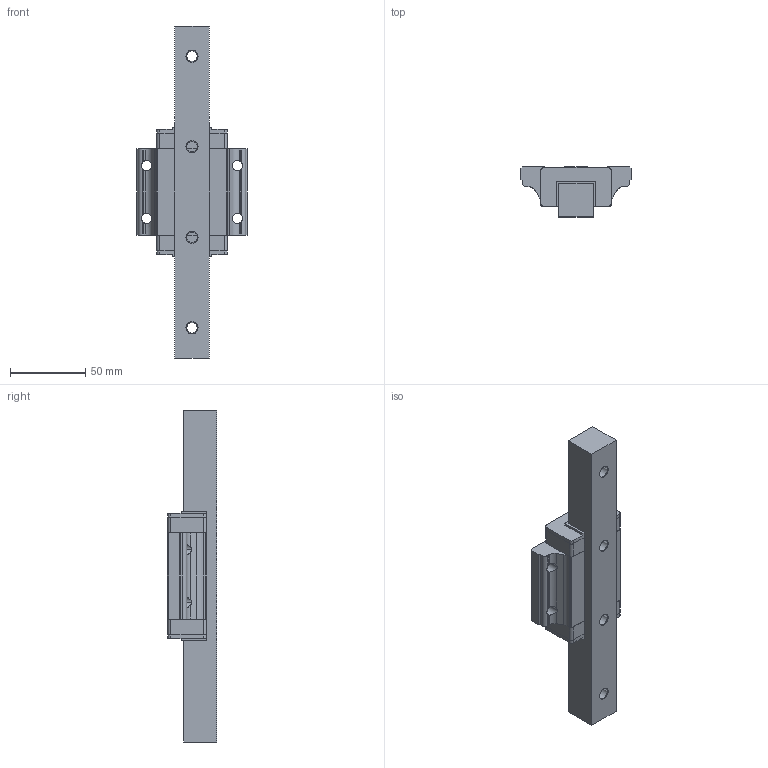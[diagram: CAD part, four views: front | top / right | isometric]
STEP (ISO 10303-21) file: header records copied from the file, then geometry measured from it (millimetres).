
FILE_DESCRIPTION((''),'2;1');
FILE_NAME('E:\PDF郪磁芞\DFS-B\DFS25A.STP','2022-11-10T14:50:19',(''),(''),'STEP Write','Mastercam V9 ... CNC Software, Inc.','');
FILE_SCHEMA(('CONFIG_CONTROL_DESIGN'));
Length unit declared in the file: millimetre
Bounding box: 73 x 33 x 220 mm (x, y, z)
Volume: 196121 mm3; surface area: 49937.4 mm2
Topology: 6 solids, 6 shells, 150 faces, 639 edges, 726 vertices
Faces by surface type: plane 100, cylinder 42, cone 8
Full cylindrical faces by diameter (mm): 7 x4, 11 x4
Entity records: 6744 total; most frequent: CARTESIAN_POINT 2028, DIRECTION 959, ORIENTED_EDGE 796, VECTOR 443, LINE 443, EDGE_CURVE 398, VERTEX_POINT 276, AXIS2_PLACEMENT_3D 258
